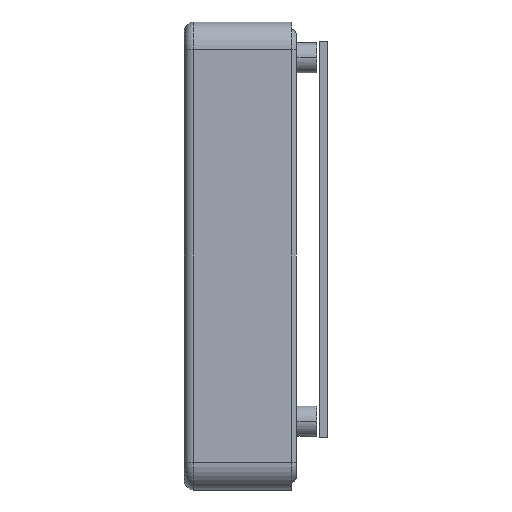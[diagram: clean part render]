
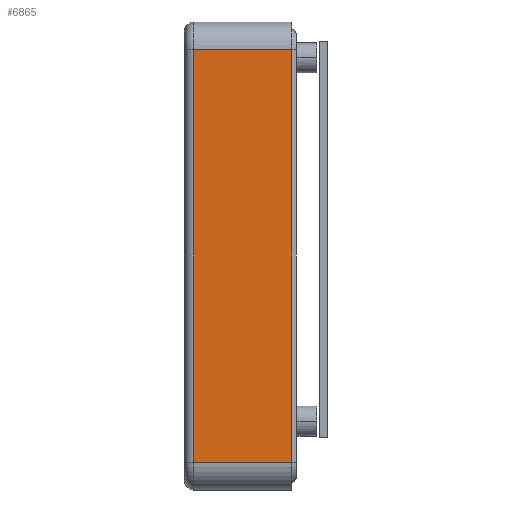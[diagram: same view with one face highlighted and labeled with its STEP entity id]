
A CAD part, left-side view. The second image highlights one B-rep face of the part: STEP entity #6865.
In plain terms, the highlighted planar face has unit normal (-1, 0, 0).
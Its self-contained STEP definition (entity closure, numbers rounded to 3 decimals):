
#2494=DIRECTION('',(0.,1.,0.));
#2495=VECTOR('',#2494,17.8);
#2496=CARTESIAN_POINT('',(-54.,0.5,37.5));
#2497=LINE('',#2496,#2495);
#2503=DIRECTION('',(0.,0.,1.));
#2504=VECTOR('',#2503,75.);
#2505=CARTESIAN_POINT('',(-54.,0.5,-37.5));
#2506=LINE('',#2505,#2504);
#2507=DIRECTION('',(0.,1.,0.));
#2508=VECTOR('',#2507,17.8);
#2509=CARTESIAN_POINT('',(-54.,0.5,-37.5));
#2510=LINE('',#2509,#2508);
#2511=DIRECTION('',(0.,0.,1.));
#2512=VECTOR('',#2511,75.);
#2513=CARTESIAN_POINT('',(-54.,18.3,-37.5));
#2514=LINE('',#2513,#2512);
#2635=CARTESIAN_POINT('',(-54.,18.3,-37.5));
#2636=CARTESIAN_POINT('',(-54.,18.3,37.5));
#2637=VERTEX_POINT('',#2635);
#2638=VERTEX_POINT('',#2636);
#2695=CARTESIAN_POINT('',(-54.,0.5,-37.5));
#2696=VERTEX_POINT('',#2695);
#2697=CARTESIAN_POINT('',(-54.,0.5,37.5));
#2698=VERTEX_POINT('',#2697);
#6854=CARTESIAN_POINT('',(-54.,-16.5,-37.5));
#6855=DIRECTION('',(-1.,0.,0.));
#6856=DIRECTION('',(0.,0.,1.));
#6857=AXIS2_PLACEMENT_3D('',#6854,#6855,#6856);
#6858=PLANE('',#6857);
#6859=ORIENTED_EDGE('',*,*,#3580,.F.);
#6860=ORIENTED_EDGE('',*,*,#3509,.T.);
#6861=ORIENTED_EDGE('',*,*,#3395,.T.);
#6862=ORIENTED_EDGE('',*,*,#6847,.F.);
#6863=EDGE_LOOP('',(#6859,#6860,#6861,#6862));
#6864=FACE_OUTER_BOUND('',#6863,.F.);
#6865=ADVANCED_FACE('',(#6864),#6858,.T.);
#3395=EDGE_CURVE('',#2637,#2638,#2514,.T.);
#3509=EDGE_CURVE('',#2696,#2637,#2510,.T.);
#3580=EDGE_CURVE('',#2696,#2698,#2506,.T.);
#6847=EDGE_CURVE('',#2698,#2638,#2497,.T.);
